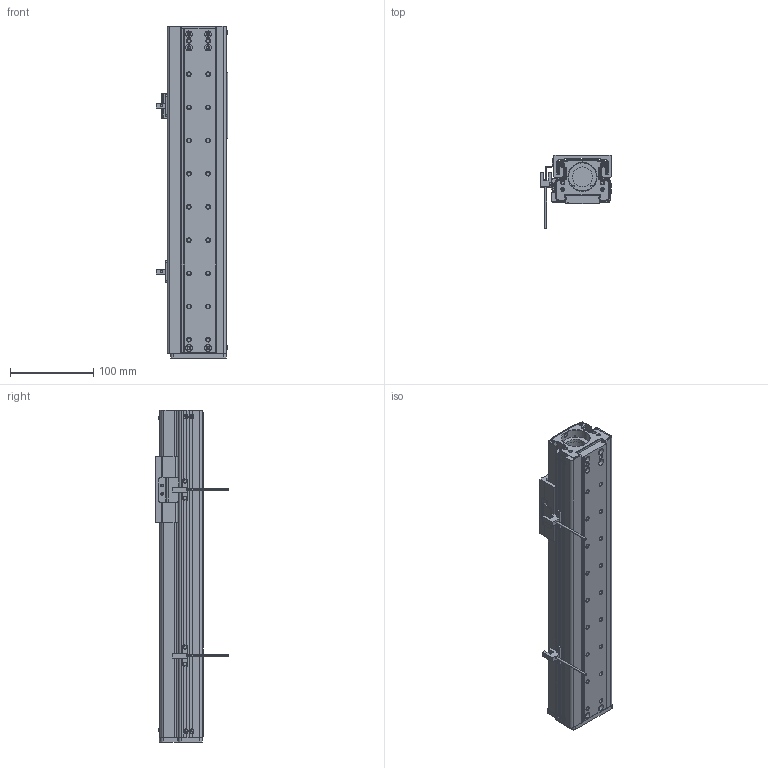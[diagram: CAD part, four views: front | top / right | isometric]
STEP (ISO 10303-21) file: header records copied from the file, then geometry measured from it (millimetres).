
FILE_DESCRIPTION (( 'STEP AP203' ), '1' );
FILE_NAME ('CTHM6-S200.STEP', '2019-12-18T01:42:33', ( '微软用户' ), ( '微软中国' ), 'SwSTEP 2.0', 'SolidWorks 2017', '' );
FILE_SCHEMA (( 'CONFIG_CONTROL_DESIGN' ));
Length unit declared in the file: millimetre
Products named in the file (17): 支持侧轴承座(带磁条); EE-SX672-BR; 遣喳蝶15x12x8; 滅袉蝶; MG60裔啣; CTHM6-S200; 耜結啣(湍羞); LMW15奻窅; DG60傷裔(祥結傷裔); 蟀諉釱(裔啣党蜊); M4-L10囀鞠褒蹟佪; LMW15AA; 侧挡板2(带磁条修改厚度); 固定侧轴承座(自制轴承座); M3-L6半圆头内六角螺丝; 羲壽え; M3-L6囀鞠褒蹟佪
Assembly tree (29 placements, depth 2):
  CTHM6-S200
    LMW15奻窅
    蟀諉釱(裔啣党蜊)
    LMW15AA
    固定侧轴承座(自制轴承座)
    羲壽え
    支持侧轴承座(带磁条)
    遣喳蝶15x12x8  x2
    MG60裔啣
    耜結啣(湍羞)
    DG60傷裔(祥結傷裔)
    M4-L10囀鞠褒蹟佪  x2
    侧挡板2(带磁条修改厚度)
    M3-L6半圆头内六角螺丝  x8
    M3-L6囀鞠褒蹟佪  x4
    EE-SX672-BR  x2
    滅袉蝶
Bounding box: 86.7 x 87.8 x 400 mm (x, y, z)
Volume: 531198.4 mm3; surface area: 336203.3 mm2
Topology: 33 solids, 33 shells, 1803 faces, 4662 edges, 2888 vertices
Faces by surface type: plane 766, cylinder 641, cone 282, torus 88, bspline 26
Entity records: 49064 total; most frequent: CARTESIAN_POINT 10433, DIRECTION 7842, ORIENTED_EDGE 7540, EDGE_CURVE 3770, AXIS2_PLACEMENT_3D 2898, VERTEX_POINT 2389, VECTOR 2046, LINE 2046
